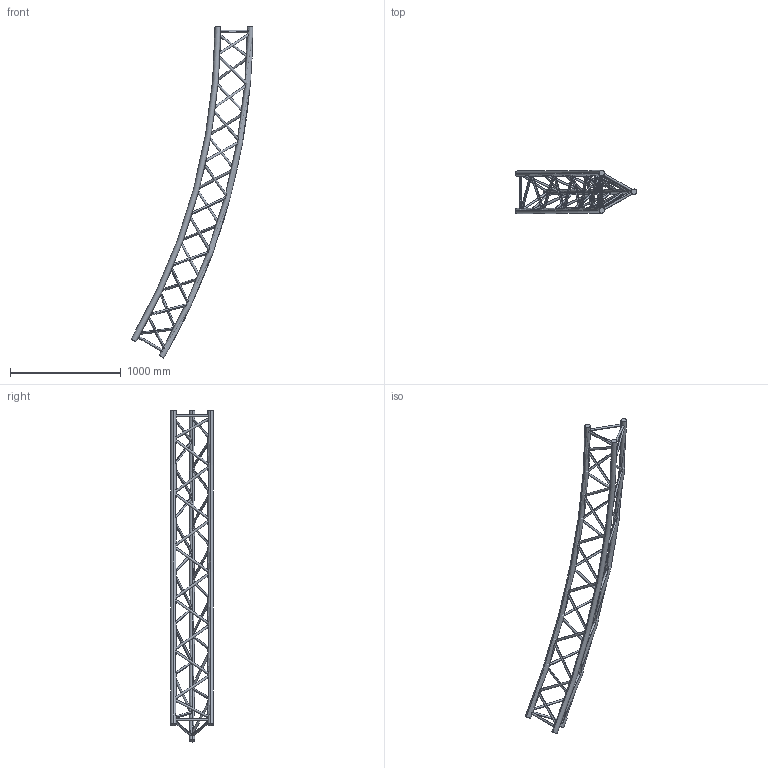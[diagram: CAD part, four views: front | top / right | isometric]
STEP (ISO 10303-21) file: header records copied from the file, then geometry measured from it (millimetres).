
FILE_DESCRIPTION (( 'STEP AP203' ), '1' );
FILE_NAME ('SXC391200PE.STEP', '2009-10-21T12:22:07', ( 'CEDIA' ), ( 'CEDIA INDUSTRIE' ), 'SwSTEP 2.0', 'SolidWorks 2009', '' );
FILE_SCHEMA (( 'CONFIG_CONTROL_DESIGN' ));
Length unit declared in the file: millimetre
Products named in the file (1): SXC391200PE
Bounding box: 1099.9 x 387 x 3000 mm (x, y, z)
Volume: 22378945.4 mm3; surface area: 2319095.8 mm2
Topology: 1 solids, 1 shells, 96 faces, 276 edges, 184 vertices
Faces by surface type: cylinder 84, torus 6, plane 6
Entity records: 11218 total; most frequent: CARTESIAN_POINT 8788, ORIENTED_EDGE 552, DIRECTION 314, EDGE_CURVE 276, VERTEX_POINT 184, EDGE_LOOP 178, B_SPLINE_CURVE_WITH_KNOTS 174, AXIS2_PLACEMENT_3D 115
